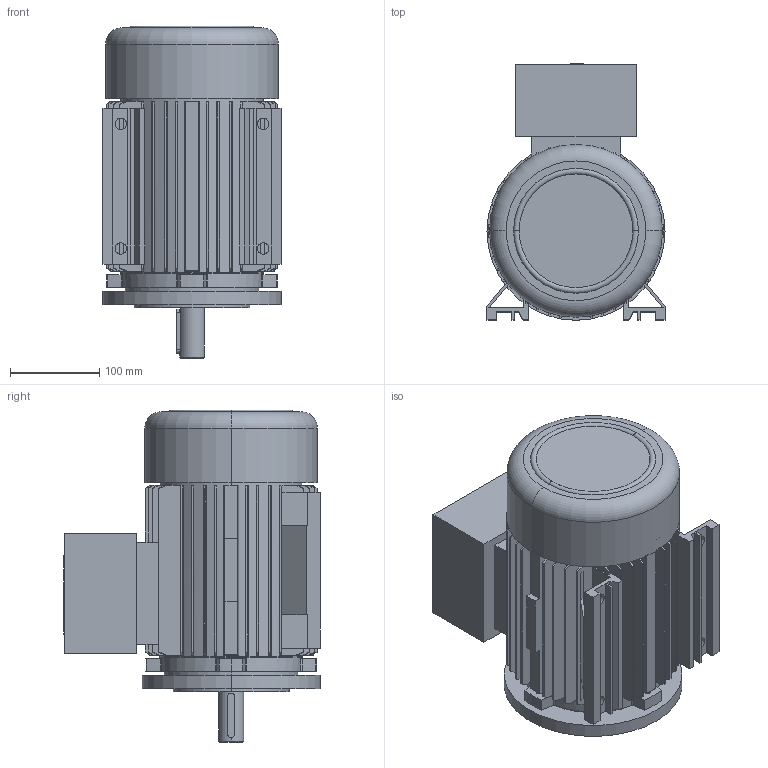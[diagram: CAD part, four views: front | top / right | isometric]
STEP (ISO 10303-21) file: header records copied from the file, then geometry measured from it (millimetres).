
FILE_DESCRIPTION (( 'STEP AP214' ), '1' );
FILE_NAME ('20.17500-G 5AT 100 B34_F165 Exde STANDK.STEP', '2018-11-15T10:24:28', ( '' ), ( '' ), 'SwSTEP 2.0', 'SolidWorks 2018', '' );
FILE_SCHEMA (( 'AUTOMOTIVE_DESIGN' ));
Length unit declared in the file: millimetre
Products named in the file (1): 20.17500-G 5AT 100 B34_F165 Exde STANDK
Bounding box: 200 x 288 x 372.99 mm (x, y, z)
Volume: 5002298.8 mm3; surface area: 919510.8 mm2
Topology: 3 solids, 3 shells, 725 faces, 1889 edges, 1232 vertices
Faces by surface type: plane 417, cylinder 165, cone 135, torus 8
Entity records: 22565 total; most frequent: CARTESIAN_POINT 4559, ORIENTED_EDGE 3746, DIRECTION 3699, EDGE_CURVE 1873, AXIS2_PLACEMENT_3D 1324, VERTEX_POINT 1232, VECTOR 1051, LINE 1051
